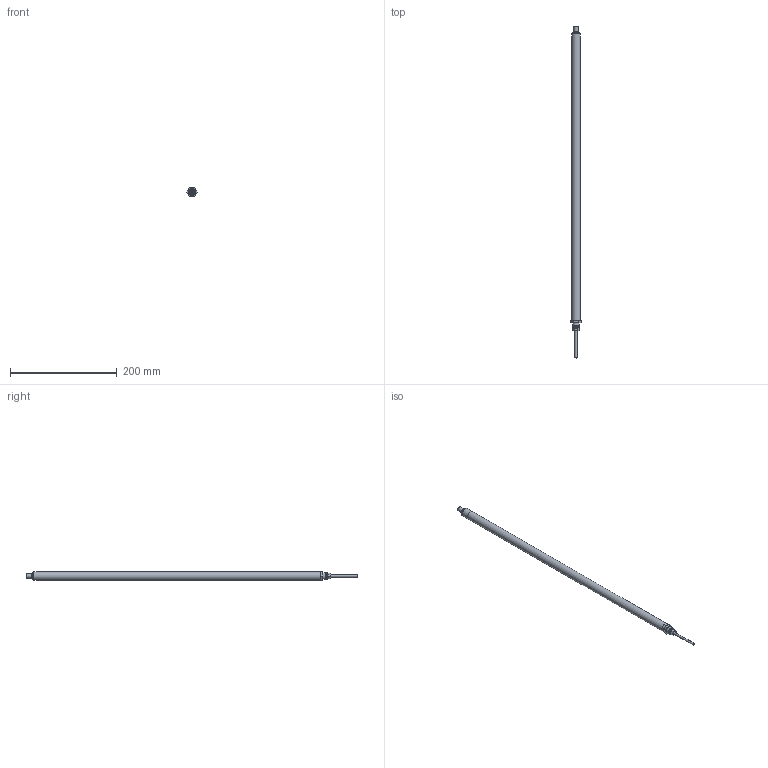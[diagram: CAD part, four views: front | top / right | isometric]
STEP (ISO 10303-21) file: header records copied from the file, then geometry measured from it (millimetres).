
FILE_DESCRIPTION(/* description */ ('Unknown'),/* implementation_level */ '2;1');
FILE_NAME(/* name */ '107.00135 Zylinder CG 1450_eingefahren',/* time_stamp */ '2018-06-15T14:49:24+02:00',/* author */ ('Unknown'),/* organization */ ('Unknown'),/* preprocessor_version */ 'ST-DEVELOPER v16.7',/* originating_system */ 'DEX',/* authorisation */ $);
FILE_SCHEMA (('AUTOMOTIVE_DESIGN {1 0 10303 214 3 1 1}'));
Length unit declared in the file: millimetre
Products named in the file (9): 107.00135; 121.00005; 142.00021; 125.00021; 115.00007_oa_0; 125.00031; 120.00025; 122.00001; 113.00002_70mm
Assembly tree (8 placements, depth 2):
  107.00135
    121.00005
    142.00021
    125.00021
    115.00007_oa_0
    125.00031
    120.00025
    122.00001
    113.00002_70mm
Bounding box: 19.63 x 623 x 17 mm (x, y, z)
Volume: 89322.2 mm3; surface area: 76348.8 mm2
Topology: 7 solids, 7 shells, 95 faces, 187 edges, 118 vertices
Faces by surface type: plane 38, cylinder 28, cone 23, torus 5, sphere 1
Full cylindrical faces by diameter (mm): 2.2 x1, 3.5 x1, 4 x1, 4.1 x1, 4.2 x1, 6 x1, 6.917 x2, 7.763 x2, 8 x4, 8.1 x3, 9 x1, 12 x2, 12.5 x1, 13 x2, 13.9 x2, 14 x2, 16 x1
Entity records: 2881 total; most frequent: DIRECTION 402, CARTESIAN_POINT 377, ORIENTED_EDGE 254, AXIS2_PLACEMENT_3D 183, FACE_BOUND 169, EDGE_LOOP 168, EDGE_CURVE 127, VERTEX_POINT 110
